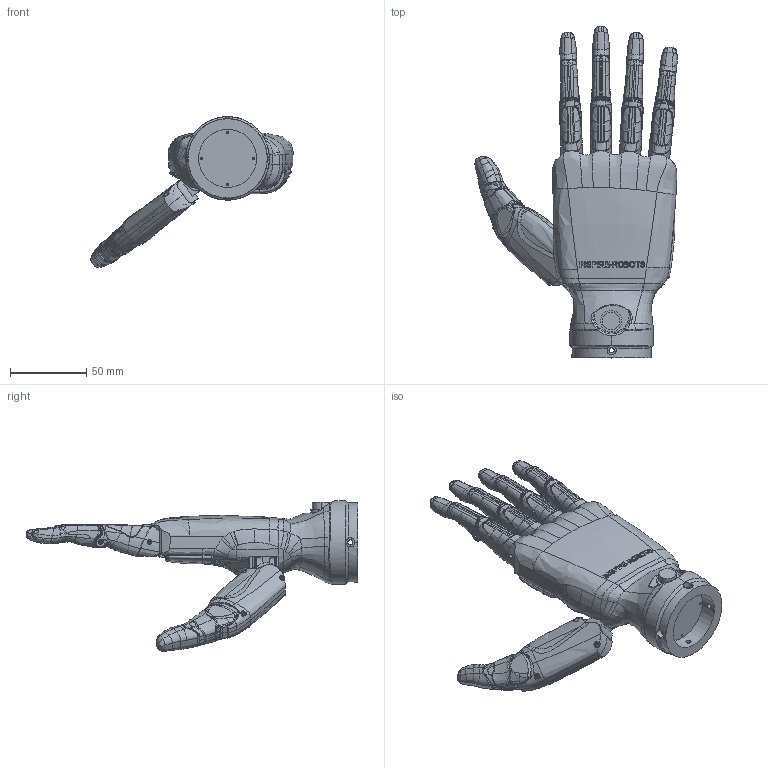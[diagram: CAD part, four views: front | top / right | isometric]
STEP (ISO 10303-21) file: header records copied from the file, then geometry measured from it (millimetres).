
FILE_DESCRIPTION (( 'STEP AP214' ), '1' );
FILE_NAME ('仿人五指灵巧手-右.STEP', '2024-03-07T06:35:06', ( '' ), ( '' ), '' );
FILE_SCHEMA (( 'AUTOMOTIVE_DESIGN' ));
Length unit declared in the file: millimetre
Products named in the file (14): 仿人五指灵巧手-右; 湮譬硌-C; 鎮湛茼曹え蹟譫; 硌潑-踢扽窒煦D; 硌潑-踢扽窒煦B; 菁釱-6; 譬硌潠趙; 硌潑傻-踢扽窒煦B; 折叠驱动器V3; 硌誹-踢扽B; 手掌软胶R_RH56-50A; 湮譬硌-0-A; 忒梪嘎殤-A; 壽誹粣創 -俋
Assembly tree (23 placements, depth 3):
  仿人五指灵巧手-右
    湮譬硌-C
      湮譬硌-0-A
    壽誹粣創 -俋  x5
    忒梪嘎殤-A
    鎮湛茼曹え蹟譫  x4
    硌誹-踢扽B  x4
    硌潑傻-踢扽窒煦B
    硌潑-踢扽窒煦B  x2
    手掌软胶R_RH56-50A
    硌潑-踢扽窒煦D
    折叠驱动器V3
    菁釱-6
  譬硌潠趙
Bounding box: 132.76 x 217.55 x 98.87 mm (x, y, z)
Volume: 311391.1 mm3; surface area: 119051.8 mm2
Topology: 21 solids, 60 shells, 6321 faces, 16470 edges, 10138 vertices
Faces by surface type: bspline 3942, plane 1220, cylinder 812, cone 193, torus 82, sphere 72
Entity records: 314572 total; most frequent: CARTESIAN_POINT 227063, ORIENTED_EDGE 24068, EDGE_CURVE 12037, DIRECTION 8922, VERTEX_POINT 7491, B_SPLINE_CURVE_WITH_KNOTS 7475, EDGE_LOOP 4739, FACE_OUTER_BOUND 4639
